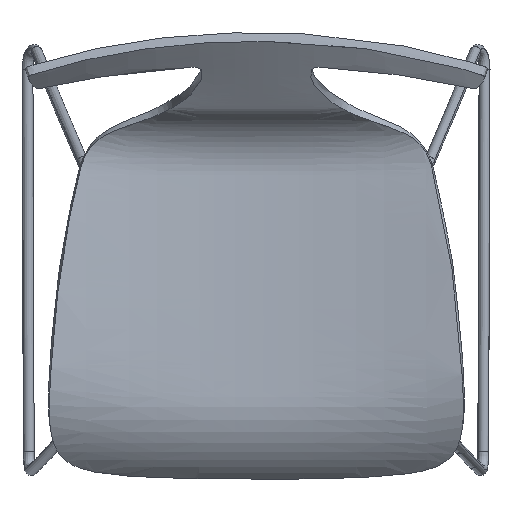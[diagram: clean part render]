
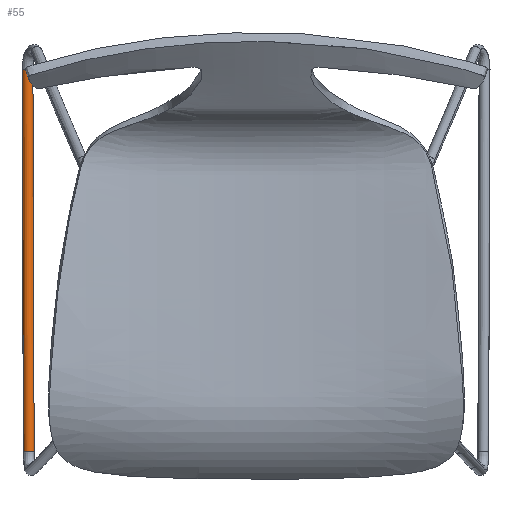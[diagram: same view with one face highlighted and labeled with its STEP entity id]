
A CAD part, top view. The second image highlights one B-rep face of the part: STEP entity #55.
In plain terms, the highlighted free-form (B-spline) face has degree [3, 2] with [4, 5] control points.
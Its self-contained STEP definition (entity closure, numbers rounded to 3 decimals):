
#55=ADVANCED_FACE('',(#103),#715,.T.);
#103=FACE_OUTER_BOUND('',#151,.T.);
#151=EDGE_LOOP('',(#223,#224,#225,#226));
#223=ORIENTED_EDGE('',*,*,#476,.T.);
#224=ORIENTED_EDGE('',*,*,#477,.T.);
#225=ORIENTED_EDGE('',*,*,#438,.F.);
#226=ORIENTED_EDGE('',*,*,#475,.F.);
#438=EDGE_CURVE('',#653,#654,#594,.T.);
#475=EDGE_CURVE('',#677,#653,#615,.T.);
#476=EDGE_CURVE('',#677,#678,#616,.T.);
#477=EDGE_CURVE('',#678,#654,#617,.T.);
#594=(
BOUNDED_CURVE()
B_SPLINE_CURVE(3,(#3777,#3778,#3779,#3780),.UNSPECIFIED.,.F.,.F.)
B_SPLINE_CURVE_WITH_KNOTS((4,4),(0.,419.819),.UNSPECIFIED.)
CURVE()
GEOMETRIC_REPRESENTATION_ITEM()
RATIONAL_B_SPLINE_CURVE((1.,1.,1.,1.))
REPRESENTATION_ITEM('')
);
#615=(
BOUNDED_CURVE()
B_SPLINE_CURVE(2,(#4477,#4478,#4479,#4480,#4481),.UNSPECIFIED.,.F.,.F.)
B_SPLINE_CURVE_WITH_KNOTS((3,2,3),(18.85,28.274,37.699),
 .UNSPECIFIED.)
CURVE()
GEOMETRIC_REPRESENTATION_ITEM()
RATIONAL_B_SPLINE_CURVE((1.,0.707,1.,0.707,1.))
REPRESENTATION_ITEM('')
);
#616=(
BOUNDED_CURVE()
B_SPLINE_CURVE(3,(#4482,#4483,#4484,#4485),.UNSPECIFIED.,.F.,.F.)
B_SPLINE_CURVE_WITH_KNOTS((4,4),(0.,419.819),.UNSPECIFIED.)
CURVE()
GEOMETRIC_REPRESENTATION_ITEM()
RATIONAL_B_SPLINE_CURVE((1.,1.,1.,1.))
REPRESENTATION_ITEM('')
);
#617=(
BOUNDED_CURVE()
B_SPLINE_CURVE(2,(#4486,#4487,#4488,#4489,#4490),.UNSPECIFIED.,.F.,.F.)
B_SPLINE_CURVE_WITH_KNOTS((3,2,3),(18.85,28.274,37.699),
 .UNSPECIFIED.)
CURVE()
GEOMETRIC_REPRESENTATION_ITEM()
RATIONAL_B_SPLINE_CURVE((1.,0.707,1.,0.707,1.))
REPRESENTATION_ITEM('')
);
#653=VERTEX_POINT('',#3540);
#654=VERTEX_POINT('',#3541);
#677=VERTEX_POINT('',#3564);
#678=VERTEX_POINT('',#3565);
#715=(
BOUNDED_SURFACE()
B_SPLINE_SURFACE(3,2,((#1100,#1101,#1102,#1103,#1104),(#1105,#1106,#1107,
#1108,#1109),(#1110,#1111,#1112,#1113,#1114),(#1115,#1116,#1117,#1118,#1119)),
 .UNSPECIFIED.,.F.,.F.,.F.)
B_SPLINE_SURFACE_WITH_KNOTS((4,4),(3,2,3),(0.,419.819),(18.85,
28.274,37.699),.UNSPECIFIED.)
GEOMETRIC_REPRESENTATION_ITEM()
RATIONAL_B_SPLINE_SURFACE(((1.,0.707,1.,0.707,1.),
(1.,0.707,1.,0.707,1.),(1.,0.707,1.,
0.707,1.),(1.,0.707,1.,0.707,1.)))
REPRESENTATION_ITEM('')
SURFACE()
);
#1100=CARTESIAN_POINT('',(2444.238,130.956,-5.002));
#1101=CARTESIAN_POINT('',(2445.541,130.948,0.855));
#1102=CARTESIAN_POINT('',(2451.398,130.97,-0.448));
#1103=CARTESIAN_POINT('',(2457.255,130.992,-1.75));
#1104=CARTESIAN_POINT('',(2455.952,131.,-7.607));
#1105=CARTESIAN_POINT('',(2444.697,-8.982,-5.285));
#1106=CARTESIAN_POINT('',(2446.,-8.99,0.572));
#1107=CARTESIAN_POINT('',(2451.857,-8.968,-0.731));
#1108=CARTESIAN_POINT('',(2457.714,-8.946,-2.034));
#1109=CARTESIAN_POINT('',(2456.411,-8.938,-7.89));
#1110=CARTESIAN_POINT('',(2445.156,-148.923,-5.568));
#1111=CARTESIAN_POINT('',(2446.459,-148.93,0.289));
#1112=CARTESIAN_POINT('',(2452.316,-148.908,-1.014));
#1113=CARTESIAN_POINT('',(2458.173,-148.887,-2.317));
#1114=CARTESIAN_POINT('',(2456.87,-148.879,-8.174));
#1115=CARTESIAN_POINT('',(2445.615,-288.86,-5.851));
#1116=CARTESIAN_POINT('',(2446.918,-288.868,0.005));
#1117=CARTESIAN_POINT('',(2452.775,-288.846,-1.297));
#1118=CARTESIAN_POINT('',(2458.632,-288.824,-2.6));
#1119=CARTESIAN_POINT('',(2457.329,-288.817,-8.457));
#3540=CARTESIAN_POINT('',(2455.952,131.,-7.607));
#3541=CARTESIAN_POINT('',(2457.329,-288.817,-8.457));
#3564=CARTESIAN_POINT('',(2444.238,130.956,-5.002));
#3565=CARTESIAN_POINT('',(2445.615,-288.86,-5.851));
#3777=CARTESIAN_POINT('',(2455.952,131.,-7.607));
#3778=CARTESIAN_POINT('',(2456.411,-8.938,-7.89));
#3779=CARTESIAN_POINT('',(2456.87,-148.879,-8.174));
#3780=CARTESIAN_POINT('',(2457.329,-288.817,-8.457));
#4477=CARTESIAN_POINT('',(2444.238,130.956,-5.002));
#4478=CARTESIAN_POINT('',(2445.541,130.948,0.855));
#4479=CARTESIAN_POINT('',(2451.398,130.97,-0.448));
#4480=CARTESIAN_POINT('',(2457.255,130.992,-1.75));
#4481=CARTESIAN_POINT('',(2455.952,131.,-7.607));
#4482=CARTESIAN_POINT('',(2444.238,130.956,-5.002));
#4483=CARTESIAN_POINT('',(2444.697,-8.982,-5.285));
#4484=CARTESIAN_POINT('',(2445.156,-148.923,-5.568));
#4485=CARTESIAN_POINT('',(2445.615,-288.86,-5.851));
#4486=CARTESIAN_POINT('',(2445.615,-288.86,-5.851));
#4487=CARTESIAN_POINT('',(2446.918,-288.868,0.005));
#4488=CARTESIAN_POINT('',(2452.775,-288.846,-1.297));
#4489=CARTESIAN_POINT('',(2458.632,-288.824,-2.6));
#4490=CARTESIAN_POINT('',(2457.329,-288.817,-8.457));
